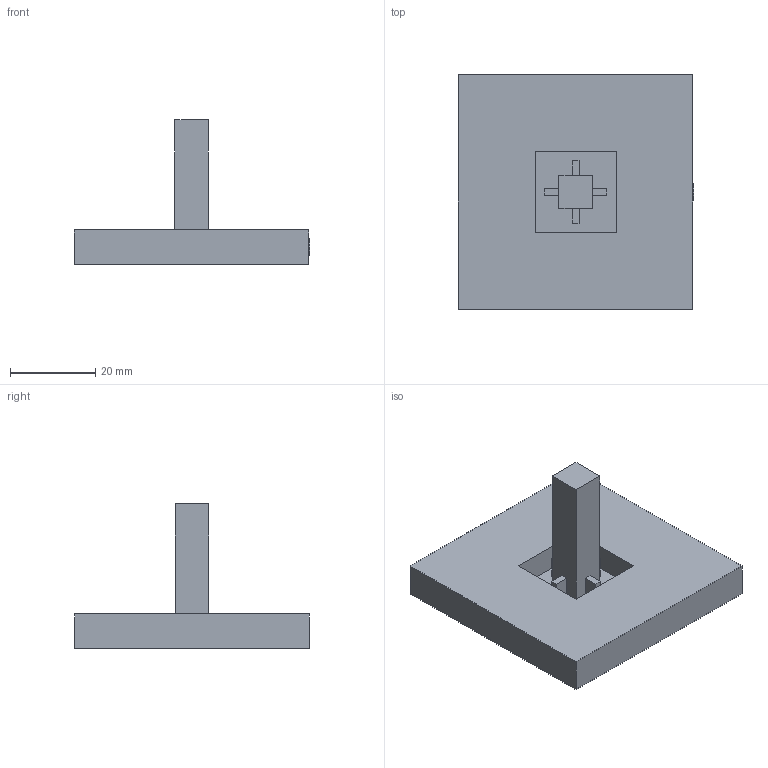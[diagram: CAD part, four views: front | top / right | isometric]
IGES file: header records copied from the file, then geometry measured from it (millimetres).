
Start section: Data from Parasolid IGES Translator 20.0.26, Copyright(c) 2006 Siemens P LM Software. All Rights Reserved.
Global section: file name: 9303940.igs; native system: By Siemens PLM Incorporated; preprocessor: XPlus GENERIC/IGES 20.0.26; author: Noname; organization: Noname; date: 20210825.160422; units: millimetre
Bounding box: 55.19 x 55 x 33.8 mm (x, y, z)
Surface area: 9418 mm2 (no closed solid volume)
Topology: 0 solids, 0 shells, 34 faces, 174 edges, 172 vertices
Faces by surface type: extrusion 33, revolution 1
